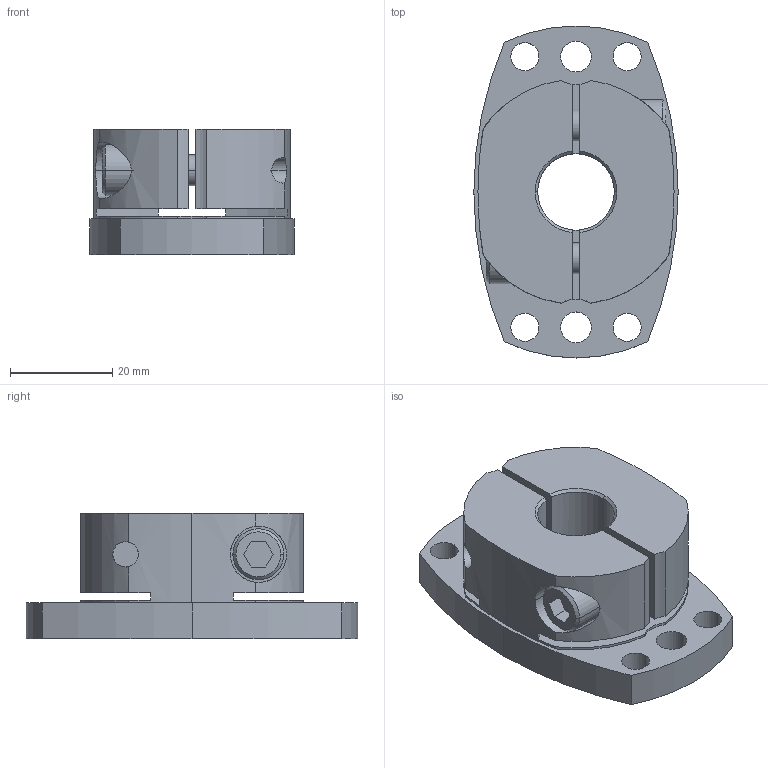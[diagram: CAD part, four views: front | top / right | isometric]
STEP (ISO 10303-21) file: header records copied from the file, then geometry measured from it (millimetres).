
FILE_DESCRIPTION((''),'2;1');
FILE_NAME('SHDB-65B-15.stp','2026-01-28T07:54:13',(''),(''),'AutoCAD STEP 2000i','AutoCAD 2000i',', , ');
FILE_SCHEMA(('CONFIG_CONTROL_DESIGN'));
Length unit declared in the file: millimetre
Products named in the file (2): SHDB-65B-12; 忣兜1
Assembly tree (1 placements, depth 2):
  SHDB-65B-12
    忣兜1
Bounding box: 40 x 65 x 24.5 mm (x, y, z)
Volume: 32608.5 mm3; surface area: 12834.1 mm2
Topology: 1 solids, 1 shells, 102 faces, 280 edges, 184 vertices
Faces by surface type: cylinder 58, plane 34, cone 10
Entity records: 3731 total; most frequent: CARTESIAN_POINT 904, DIRECTION 602, ORIENTED_EDGE 560, EDGE_CURVE 280, AXIS2_PLACEMENT_3D 238, VERTEX_POINT 184, CIRCLE 134, VECTOR 126
